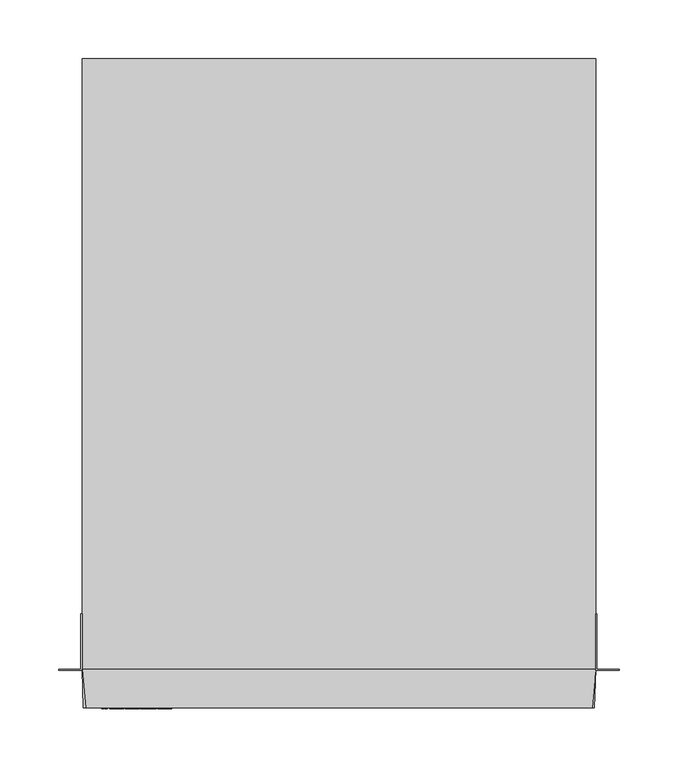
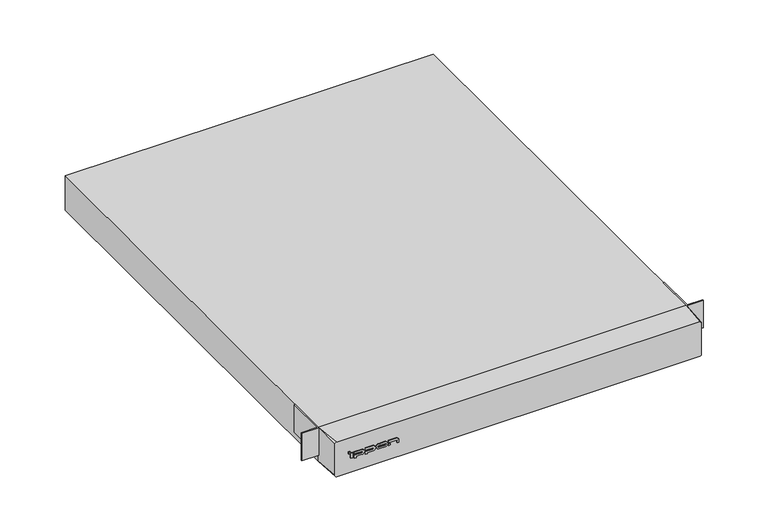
"""IFC4 building model written with IfcOpenShell, lengths in millimetres: proxy geometry, IPPON_ИБП_Smart Winner II 1U_1150_1550ВА : Smart Winner II 1550 ВА (1U)."""

import ifcopenshell
import ifcopenshell.guid

model = None  # the IFC model being written
_history = None  # IfcOwnerHistory: only IFC2X3 demands one
_inside = {}  # id of a spatial element -> (the spatial element, [elements in it])
_under = {}  # id of a project, library or spatial element -> (it, [spatial elements below it])
_declared = {}  # id of a project -> (the project, [libraries it declares])
_typed = {}  # id of a type object -> (the type object, [elements of that type])
_made_of = {}  # id of a material, layer set ... -> (it, [elements and type objects made of it])


def new_model(schema):
    """Start an empty IFC model of exactly this schema.

    Asked for "IFC4X3", IfcOpenShell would pick the latest addendum, in which some entities
    have other attributes; the version numbers below select the first issue.
    IFC2X3 requires an IfcOwnerHistory on every rooted entity: one is made here for all.
    """
    global model, _history
    if schema == "IFC4X3":
        model = ifcopenshell.file(schema_version=(4, 3, 0, 0))
    else:
        model = ifcopenshell.file(schema=schema)
    _inside.clear()
    _under.clear()
    _declared.clear()
    _typed.clear()
    _made_of.clear()
    _history = None
    if model.schema == "IFC2X3":
        org = make("IfcOrganization", Name="unknown")
        user = make(
            "IfcPersonAndOrganization",
            ThePerson=make("IfcPerson", FamilyName="unknown"),
            TheOrganization=org,
        )
        app = make(
            "IfcApplication",
            ApplicationDeveloper=org,
            Version="unknown",
            ApplicationFullName="unknown",
            ApplicationIdentifier="unknown",
        )
        _history = make(
            "IfcOwnerHistory",
            OwningUser=user,
            OwningApplication=app,
            ChangeAction="ADDED",
            CreationDate=0,
        )
    return model


def make(cls, **values):
    """One entity of the class cls with the attributes given. An attribute that is None is left unset."""
    return model.create_entity(
        cls, **{name: value for name, value in values.items() if value is not None}
    )


def rooted(cls, **values):
    """An entity with a GlobalId (a new one), such as an element, a storey or a relation."""
    return make(cls, GlobalId=ifcopenshell.guid.new(), OwnerHistory=_history, **values)


def si_unit(unit_type, name, prefix=None):
    """IfcSIUnit, for example si_unit("LENGTHUNIT", "METRE", prefix="MILLI")."""
    return make("IfcSIUnit", UnitType=unit_type, Prefix=prefix, Name=name)


def assignment(units):
    """IfcUnitAssignment: the units of a project."""
    return None if units is None else make("IfcUnitAssignment", Units=units)


def point(xyz):
    """IfcCartesianPoint."""
    return None if xyz is None else make("IfcCartesianPoint", Coordinates=xyz)


def direction(xyz):
    """IfcDirection."""
    return None if xyz is None else make("IfcDirection", DirectionRatios=xyz)


def frame(location, z_axis=None, x_axis=None):
    """IfcAxis2Placement3D, a coordinate frame: its origin and axes. An axis left out is left unset."""
    return make(
        "IfcAxis2Placement3D",
        Location=point(location),
        Axis=direction(z_axis),
        RefDirection=direction(x_axis),
    )


def frame_2d(location, x_axis=None):
    """IfcAxis2Placement2D, a coordinate frame in the plane: its origin and x axis."""
    return make(
        "IfcAxis2Placement2D", Location=point(location), RefDirection=direction(x_axis)
    )


def origin():
    """The frame at (0, 0, 0) with its axes left unset."""
    return frame((0.0, 0.0, 0.0))


def place(relative_to, where):
    """IfcLocalPlacement: puts the frame where relative to a parent placement (None: the world)."""
    return make(
        "IfcLocalPlacement", PlacementRelTo=relative_to, RelativePlacement=where
    )


def context(
    kind, dimensions, precision=None, world=None, true_north=None, identifier=None
):
    """IfcGeometricRepresentationContext, for example the 3D "Model" context."""
    return make(
        "IfcGeometricRepresentationContext",
        ContextIdentifier=identifier,
        ContextType=kind,
        CoordinateSpaceDimension=dimensions,
        Precision=precision,
        WorldCoordinateSystem=world,
        TrueNorth=true_north,
    )


def project(units=None, contexts=None):
    """IfcProject with its units and contexts."""
    return rooted(
        "IfcProject",
        Name="project",
        RepresentationContexts=contexts,
        UnitsInContext=assignment(units),
    )


def spatial(cls, under=None, at=None, **own):
    """A site, building, storey or space (cls), placed at a placement, below another one or the project."""
    s = rooted(cls, ObjectPlacement=at, **own)
    if under is not None:
        _under.setdefault(under.id(), (under, []))[1].append(s)
    return s


def polyline(points):
    """IfcPolyline through the points."""
    return make("IfcPolyline", Points=[point(p) for p in points])


def circle_curve(where, radius):
    """IfcCircle in the frame where."""
    return make("IfcCircle", Position=where, Radius=radius)


def trimmed(basis, trim1, trim2, sense, master):
    """IfcTrimmedCurve: the piece of a basis curve between two trims."""
    return make(
        "IfcTrimmedCurve",
        BasisCurve=basis,
        Trim1=trim1,
        Trim2=trim2,
        SenseAgreement=sense,
        MasterRepresentation=master,
    )


def segment(curve, same_sense, transition):
    """IfcCompositeCurveSegment."""
    return make(
        "IfcCompositeCurveSegment",
        Transition=transition,
        SameSense=same_sense,
        ParentCurve=curve,
    )


def composite_curve(segments, self_intersect=None):
    """IfcCompositeCurve: segments joined end to end."""
    return make("IfcCompositeCurve", Segments=segments, SelfIntersect=self_intersect)


def outline(outer, holes=None, kind="AREA"):
    """IfcArbitraryClosedProfileDef: a profile drawn as a closed curve; with holes, ...WithVoids."""
    if holes is None:
        return make("IfcArbitraryClosedProfileDef", ProfileType=kind, OuterCurve=outer)
    return make(
        "IfcArbitraryProfileDefWithVoids",
        ProfileType=kind,
        OuterCurve=outer,
        InnerCurves=holes,
    )


def extrude(swept, where, along, depth):
    """IfcExtrudedAreaSolid: the profile swept, set in the frame where, extruded along a direction by depth."""
    return make(
        "IfcExtrudedAreaSolid",
        SweptArea=swept,
        Position=where,
        ExtrudedDirection=direction(along),
        Depth=depth,
    )


def shape(context_of_items, identifier, shape_type, items):
    """IfcShapeRepresentation: the items that make up one representation, for example the "Body"."""
    return make(
        "IfcShapeRepresentation",
        ContextOfItems=context_of_items,
        RepresentationIdentifier=identifier,
        RepresentationType=shape_type,
        Items=items,
    )


def source(mapping_origin, context_of_items, identifier, shape_type, items):
    """IfcRepresentationMap: a shape defined once, which mapped items show again and again."""
    return make(
        "IfcRepresentationMap",
        MappingOrigin=mapping_origin,
        MappedRepresentation=shape(context_of_items, identifier, shape_type, items),
    )


def transform(
    local_origin,
    x_axis=None,
    y_axis=None,
    z_axis=None,
    scale=None,
    scale2=None,
    scale3=None,
    uniform=True,
):
    """IfcCartesianTransformationOperator3D, or its non-uniform kind. x_axis, y_axis, z_axis: its Axis1, 2, 3."""
    if uniform:
        return make(
            "IfcCartesianTransformationOperator3D",
            Axis1=direction(x_axis),
            Axis2=direction(y_axis),
            LocalOrigin=point(local_origin),
            Scale=scale,
            Axis3=direction(z_axis),
        )
    return make(
        "IfcCartesianTransformationOperator3DnonUniform",
        Axis1=direction(x_axis),
        Axis2=direction(y_axis),
        LocalOrigin=point(local_origin),
        Scale=scale,
        Axis3=direction(z_axis),
        Scale2=scale2,
        Scale3=scale3,
    )


def mapped(mapping_source, mapping_target):
    """IfcMappedItem: shows the shape of a source again, moved by a transform."""
    return make(
        "IfcMappedItem", MappingSource=mapping_source, MappingTarget=mapping_target
    )


def made_of(thing, what):
    """Note that an element or type object is made of a material, layer set ...; save() writes the relation."""
    if what is not None:
        _made_of.setdefault(what.id(), (what, []))[1].append(thing)
    return thing


def element(
    cls,
    number,
    at=None,
    inside=None,
    cuts=None,
    type_object=None,
    material=None,
    context=None,
    identifier="Body",
    shape_type=None,
    held_by="IfcProductDefinitionShape",
    body=None,
    shapes=None,
    **own,
):
    """One element of the class cls, such as IfcWall. Its Tag is "e" and its number.

    at: its placement. inside: the storey or other place that contains it. cuts: it is an
    opening in that element (IfcRelVoidsElement). A single representation is given by context,
    identifier, shape_type and body (its items); several are given by shapes. held_by: the class
    of the entity that holds the representations. save() writes the other relations.
    """
    e = rooted(cls, Tag="e%d" % number, ObjectPlacement=at, **own)
    if body is not None:
        shapes = [shape(context, identifier, shape_type, body)]
    if shapes is not None:
        e.Representation = make(held_by, Representations=shapes)
    if inside is not None:
        _inside.setdefault(inside.id(), (inside, []))[1].append(e)
    if cuts is not None:
        rooted(
            "IfcRelVoidsElement", RelatingBuildingElement=cuts, RelatedOpeningElement=e
        )
    if type_object is not None:
        _typed.setdefault(type_object.id(), (type_object, []))[1].append(e)
    return made_of(e, material)


def aggregate(whole, parts):
    """IfcRelAggregates: a whole, such as a stair, and the parts it consists of."""
    return rooted("IfcRelAggregates", RelatingObject=whole, RelatedObjects=parts)


def save(model, path):
    """Write the relations noted so far, then the file.

    IfcRelAggregates (storeys below a building ...), IfcRelContainedInSpatialStructure (elements
    in a storey), IfcRelDefinesByType, IfcRelAssociatesMaterial and IfcRelDeclares: one each for
    every whole, place, type object, material and project.
    """
    for whole, parts in _under.values():
        aggregate(whole, parts)
    for where, things in _inside.values():
        rooted(
            "IfcRelContainedInSpatialStructure",
            RelatedElements=things,
            RelatingStructure=where,
        )
    for kind, things in _typed.values():
        rooted("IfcRelDefinesByType", RelatedObjects=things, RelatingType=kind)
    for what, things in _made_of.values():
        rooted("IfcRelAssociatesMaterial", RelatedObjects=things, RelatingMaterial=what)
    for by, libraries in _declared.values():
        rooted("IfcRelDeclares", RelatingContext=by, RelatedDefinitions=libraries)
    model.write(path)


def plane_surface(at):
    """IfcPlane: the flat surface through the origin of the frame at, square to its z axis."""
    return make("IfcPlane", Position=at)


def spline_surface(u_degree, v_degree, points, u_multiplicities, v_multiplicities, u_knots, v_knots, weights=None):
    """IfcBSplineSurfaceWithKnots; with weights, IfcRationalBSplineSurfaceWithKnots. points: one row for each step in u."""
    own = dict(
        UDegree=u_degree,
        VDegree=v_degree,
        ControlPointsList=[[point(p) for p in row] for row in points],
        SurfaceForm="UNSPECIFIED",
        UClosed=False,
        VClosed=False,
        SelfIntersect=False,
        UMultiplicities=u_multiplicities,
        VMultiplicities=v_multiplicities,
        UKnots=u_knots,
        VKnots=v_knots,
        KnotSpec="UNSPECIFIED",
    )
    if weights is None:
        return make("IfcBSplineSurfaceWithKnots", **own)
    return make("IfcRationalBSplineSurfaceWithKnots", WeightsData=weights, **own)


def advanced_brep(points, edges, surfaces, faces):
    """IfcAdvancedBrep: a solid bounded by faces that lie on surfaces and meet in shared edges.

    An edge is (start, end): straight between two places in points (the first is 0);
    or (start, end, curve); or (start, end, curve, False) where it runs against its curve.
    A face is (place in surfaces, loops), or (place, loops, False) where it looks against
    its surface's normal. A loop lists edges by number (the first is 1), with a minus sign
    where the edge is run from its end to its start. The first loop is the outer one.
    """
    corners = [point(p) for p in points]
    vertices = [make("IfcVertexPoint", VertexGeometry=c) for c in corners]
    made = []
    for start, end, *more in edges:
        made.append(
            make(
                "IfcEdgeCurve",
                EdgeStart=vertices[start],
                EdgeEnd=vertices[end],
                EdgeGeometry=more[0] if more else make("IfcPolyline", Points=[corners[start], corners[end]]),
                SameSense=more[1] if len(more) > 1 else True,
            )
        )
    hull = []
    for where, loops, *sense in faces:
        bounds = []
        for j, loop in enumerate(loops):
            ring = [make("IfcOrientedEdge", EdgeElement=made[abs(k) - 1], Orientation=k > 0) for k in loop]
            bounds.append(
                make(
                    "IfcFaceOuterBound" if j == 0 else "IfcFaceBound",
                    Bound=make("IfcEdgeLoop", EdgeList=ring),
                    Orientation=True,
                )
            )
        hull.append(make("IfcAdvancedFace", Bounds=bounds, FaceSurface=surfaces[where], SameSense=sense[0] if sense else True))
    return make("IfcAdvancedBrep", Outer=make("IfcClosedShell", CfsFaces=hull))


def electrical_equipment_9c128fde(model_context):
    return source(origin(), model_context, "Body", "SolidModel", [
        extrude(outline(polyline([(-200.4218133, -1.0), (-202.4218133, -1.0), (-202.4218133, 0.0), (-200.4218133, 0.0), (-200.4218133, -1.0)])), frame((0.0, 0.0, 25.5695835), z_axis=(0.0, 0.0, 1.0), x_axis=(1.0, 0.0, 0.0)), (0.0, 0.0, 1.0), 2.3),
        extrude(outline(polyline([(-152.6464526, -1.0), (-154.6464526, -1.0), (-154.6464526, 0.0), (-152.6464526, 0.0), (-152.6464526, -1.0)])), frame((0.0, 0.0, 19.5695835), z_axis=(0.0, 0.0, 1.0), x_axis=(1.0, 0.0, 0.0)), (0.0, 0.0, 1.0), 2.2268231),
        extrude(outline(polyline([(-197.688565, -1.0), (-199.7333324, -1.0), (-199.7333324, 0.0), (-197.688565, 0.0), (-197.688565, -1.0)])), frame((0.0, 0.0, 19.5695835), z_axis=(0.0, 0.0, 1.0), x_axis=(1.0, 0.0, 0.0)), (0.0, 0.0, 1.0), 6.0),
        extrude(outline(composite_curve([segment(polyline([(23.3071435, -195.4741109), (23.3071435, -186.2423536)]), True, "CONTINUOUS"), segment(trimmed(circle_curve(frame_2d((22.4506642, -186.2423536)), 0.8564793), [point((23.3071435, -186.2423536))], [point((21.5941849, -186.2423536))], True, "CARTESIAN"), True, "CONTINUOUS"), segment(polyline([(21.5941849, -186.2423536), (21.5941849, -195.4741109), (18.1036803, -195.4741109), (18.1036803, -193.4741109), (19.5695835, -193.4741109), (19.5695835, -186.3986036)]), True, "CONTINUOUS"), segment(trimmed(circle_curve(frame_2d((22.5695835, -186.3986036)), 3.0), [point((19.5695835, -186.3986036))], [point((25.5695835, -186.3986036))], False, "CARTESIAN"), True, "CONTINUOUS"), segment(polyline([(25.5695835, -186.3986036), (25.5695835, -195.4741109), (23.3071435, -195.4741109)]), True, "CONTINUOUS")], self_intersect=False)), frame((0.0, -1.0, 0.0), z_axis=(0.0, 1.0, 0.0), x_axis=(0.0, 0.0, 1.0)), (0.0, 0.0, 1.0), 1.0),
        extrude(outline(composite_curve([segment(polyline([(23.3071435, -182.2671091), (23.3071435, -173.0353518)]), True, "CONTINUOUS"), segment(trimmed(circle_curve(frame_2d((22.4506642, -173.0353518)), 0.8564793), [point((23.3071435, -173.0353518))], [point((21.5941849, -173.0353518))], True, "CARTESIAN"), True, "CONTINUOUS"), segment(polyline([(21.5941849, -173.0353518), (21.5941849, -182.2671091), (18.1036803, -182.2671091), (18.1036803, -180.2671091), (19.5695835, -180.2671091), (19.5695835, -173.1916018)]), True, "CONTINUOUS"), segment(trimmed(circle_curve(frame_2d((22.5695835, -173.1916018)), 3.0), [point((19.5695835, -173.1916018))], [point((25.5695835, -173.1916018))], False, "CARTESIAN"), True, "CONTINUOUS"), segment(polyline([(25.5695835, -173.1916018), (25.5695835, -182.2671091), (23.3071435, -182.2671091)]), True, "CONTINUOUS")], self_intersect=False)), frame((0.0, -1.0, 0.0), z_axis=(0.0, 1.0, 0.0), x_axis=(0.0, 0.0, 1.0)), (0.0, 0.0, 1.0), 1.0),
        extrude(outline(composite_curve([segment(trimmed(circle_curve(frame_2d((22.5695835, -158.691343)), 3.0), [point((19.5695835, -158.691343))], [point((25.5695835, -158.691343))], False, "CARTESIAN"), True, "CONTINUOUS"), segment(polyline([(25.5695835, -158.691343), (25.5695835, -166.291343)]), True, "CONTINUOUS"), segment(trimmed(circle_curve(frame_2d((22.5695835, -166.291343)), 3.0), [point((25.5695835, -166.291343))], [point((19.5695835, -166.291343))], False, "CARTESIAN"), True, "CONTINUOUS"), segment(polyline([(19.5695835, -166.291343), (19.5695835, -158.691343)]), True, "CONTINUOUS")], self_intersect=False), holes=[composite_curve([segment(polyline([(21.5941849, -158.535093), (21.5941849, -166.447593)]), True, "CONTINUOUS"), segment(trimmed(circle_curve(frame_2d((22.4506642, -166.447593)), 0.8564793), [point((21.5941849, -166.447593))], [point((23.3071435, -166.447593))], True, "CARTESIAN"), True, "CONTINUOUS"), segment(polyline([(23.3071435, -166.447593), (23.3071435, -158.535093)]), True, "CONTINUOUS"), segment(trimmed(circle_curve(frame_2d((22.4506642, -158.535093)), 0.8564793), [point((23.3071435, -158.535093))], [point((21.5941849, -158.535093))], True, "CARTESIAN"), True, "CONTINUOUS")], self_intersect=False)]), frame((0.0, -1.0, 0.0), z_axis=(0.0, 1.0, 0.0), x_axis=(0.0, 0.0, 1.0)), (0.0, 0.0, 1.0), 1.0),
        extrude(outline(composite_curve([segment(polyline([(23.3071435, -154.6464526), (23.3071435, -145.4146954)]), True, "CONTINUOUS"), segment(trimmed(circle_curve(frame_2d((22.4506642, -145.4146954)), 0.8564793), [point((23.3071435, -145.4146954))], [point((22.4506642, -144.5582161))], True, "CARTESIAN"), True, "CONTINUOUS"), segment(polyline([(22.4506642, -144.5582161), (19.5695835, -144.5582161), (19.5695835, -142.6182079), (23.1, -142.6182079)]), True, "CONTINUOUS"), segment(trimmed(circle_curve(frame_2d((22.5695835, -145.5709454)), 3.0), [point((23.1, -142.6182079))], [point((25.5695835, -145.5709454))], False, "CARTESIAN"), True, "CONTINUOUS"), segment(polyline([(25.5695835, -145.5709454), (25.5695835, -154.6464526), (23.3071435, -154.6464526)]), True, "CONTINUOUS")], self_intersect=False)), frame((0.0, -1.0, 0.0), z_axis=(0.0, 1.0, 0.0), x_axis=(0.0, 0.0, 1.0)), (0.0, 0.0, 1.0), 1.0),
        extrude(outline(polyline([(219.0, 32.0), (219.0, 80.0), (220.0, 80.0), (220.0, 33.0), (239.0, 33.0), (239.0, 32.0), (219.0, 32.0)])), frame((0.0, 0.0, 10.0), z_axis=(0.0, 0.0, 1.0), x_axis=(1.0, 0.0, 0.0)), (0.0, 0.0, 1.0), 34.7),
        extrude(outline(polyline([(-219.0, 32.0), (-239.0, 32.0), (-239.0, 33.0), (-220.0, 33.0), (-220.0, 80.0), (-219.0, 80.0), (-219.0, 32.0)])), frame((0.0, 0.0, 10.0), z_axis=(0.0, 0.0, 1.0), x_axis=(1.0, 0.0, 0.0)), (0.0, 0.0, 1.0), 34.7),
        advanced_brep(
        [(216.0, 0.0, 1.5), (218.0, 0.0, 3.5), (218.0, 0.0, 42.7), (216.0, 0.0, 44.7), (-216.0, 0.0, 44.7), (-218.0, 0.0, 42.7), (-218.0, 0.0, 3.5), (-216.0, 0.0, 1.5), (219.0, 33.0, 1.5), (-219.0, 33.0, 1.5), (-219.0, 33.0, 44.7), (219.0, 33.0, 44.7)],
        [
            (0, 1, circle_curve(frame((216.0, 0.0, 3.5), z_axis=(0.0, -1.0, 0.0), x_axis=(-1.0, 0.0, 0.0)), 2.0)),
            (1, 2),
            (2, 3, circle_curve(frame((216.0, 0.0, 42.7), z_axis=(0.0, -1.0, 0.0), x_axis=(-1.0, 0.0, 0.0)), 2.0)),
            (3, 4),
            (4, 5, circle_curve(frame((-216.0, 0.0, 42.7), z_axis=(0.0, -1.0, 0.0), x_axis=(-1.0, 0.0, 0.0)), 2.0)),
            (5, 6),
            (6, 7, circle_curve(frame((-216.0, 0.0, 3.5), z_axis=(0.0, -1.0, 0.0), x_axis=(-1.0, 0.0, 0.0)), 2.0)),
            (7, 0),
            (8, 9),
            (9, 10),
            (10, 11),
            (11, 8),
            (0, 8),
            (8, 1),
            (7, 9),
            (6, 9),
            (5, 10),
            (4, 10),
            (3, 11),
            (2, 11),
        ],
        [
            plane_surface(frame((0.0, 0.0, 23.1), z_axis=(0.0, -1.0, 0.0), x_axis=(1.0, 0.0, 0.0))),
            plane_surface(frame((0.0, 33.0, 23.1), z_axis=(0.0, 1.0, 0.0), x_axis=(1.0, 0.0, 0.0))),
            spline_surface(2, 1, [[(219.0, 33.0, 1.5), (216.0, 0.0, 1.5)], [(219.0, 33.0, 1.5), (218.0, 0.0, 1.5)], [(219.0, 33.0, 1.5), (218.0, 0.0, 3.5)]], [3, 3], [2, 2], [0.0, 1.0], [0.0, 1.0], weights=[[1.0, 1.0], [0.7071067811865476, 0.7071067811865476], [1.0, 1.0]]),
            plane_surface(frame((0.0, 33.0, 1.5), z_axis=(0.0, 0.0, -1.0), x_axis=(1.0, 0.0, 0.0))),
            spline_surface(2, 1, [[(-219.0, 33.0, 1.5), (-218.0, 0.0, 3.5)], [(-219.0, 33.0, 1.5), (-218.0, 0.0, 1.5)], [(-219.0, 33.0, 1.5), (-216.0, 0.0, 1.5)]], [3, 3], [2, 2], [0.0, 1.0], [0.0, 1.0], weights=[[1.0, 1.0], [0.7071067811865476, 0.7071067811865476], [1.0, 1.0]]),
            plane_surface(frame((-219.0, 33.0, 23.1), z_axis=(-0.9995411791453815, -0.030289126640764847, 0.0), x_axis=(0.0, 0.0, -1.0))),
            spline_surface(2, 1, [[(-219.0, 33.0, 44.7), (-216.0, 0.0, 44.7)], [(-219.0, 33.0, 44.7), (-218.0, 0.0, 44.7)], [(-219.0, 33.0, 44.7), (-218.0, 0.0, 42.7)]], [3, 3], [2, 2], [0.0, 1.0], [0.0, 1.0], weights=[[1.0, 1.0], [0.7071067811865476, 0.7071067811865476], [1.0, 1.0]]),
            plane_surface(frame((0.0, 33.0, 44.7), z_axis=(0.0, 0.0, 1.0), x_axis=(-1.0, 0.0, 0.0))),
            spline_surface(2, 1, [[(219.0, 33.0, 44.7), (218.0, 0.0, 42.7)], [(219.0, 33.0, 44.7), (218.0, 0.0, 44.7)], [(219.0, 33.0, 44.7), (216.0, 0.0, 44.7)]], [3, 3], [2, 2], [0.0, 1.0], [0.0, 1.0], weights=[[1.0, 1.0], [0.7071067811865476, 0.7071067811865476], [1.0, 1.0]]),
            plane_surface(frame((219.0, 33.0, 23.1), z_axis=(0.9995411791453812, -0.03028912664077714, 0.0), x_axis=(0.0, 0.0, 1.0))),
        ],
        [
            (0, [[1, 2, 3, 4, 5, 6, 7, 8]]),
            (1, [[9, 10, 11, 12]]),
            (2, [[-1, 13, 14]]),
            (3, [[-9, -13, -8, 15]]),
            (4, [[-7, 16, -15]]),
            (5, [[-10, -16, -6, 17]]),
            (6, [[-5, 18, -17]]),
            (7, [[-11, -18, -4, 19]]),
            (8, [[-3, 20, -19]]),
            (9, [[-12, -20, -2, -14]]),
        ],
    ),
        extrude(outline(polyline([(219.0, 33.0), (-219.0, 33.0), (-219.0, 554.0), (219.0, 554.0), (219.0, 33.0)])), frame((0.0, 0.0, 1.5), z_axis=(0.0, 0.0, 1.0), x_axis=(1.0, 0.0, 0.0)), (0.0, 0.0, 1.0), 43.2),
    ])


if __name__ == "__main__":
    model = new_model("IFC4")
    model_context = context("Model", 3, world=origin())
    ifc_project = project(units=[si_unit("LENGTHUNIT", "METRE", prefix="MILLI")], contexts=[model_context])
    site = spatial("IfcSite", under=ifc_project)
    building = spatial("IfcBuilding", under=site)
    placement = place(None, origin())
    electrical_equipment_shape = electrical_equipment_9c128fde(model_context)
    element("IfcBuildingElementProxy", 1, Name="IPPON_ИБП_Smart Winner II 1U_1150_1550ВА : Smart Winner II 1550 ВА (1U)", ObjectType="IPPON_ИБП_Smart Winner II 1U_1150_1550ВА : Smart Winner II 1550 ВА (1U)", at=placement, inside=building, context=model_context, shape_type="MappedRepresentation", body=[
        mapped(electrical_equipment_shape, transform((0.0, 0.0, 0.0), x_axis=(1.0, 0.0, 0.0), y_axis=(0.0, 1.0, 0.0), z_axis=(0.0, 0.0, 1.0))),
    ])
    save(model, "model.ifc")
